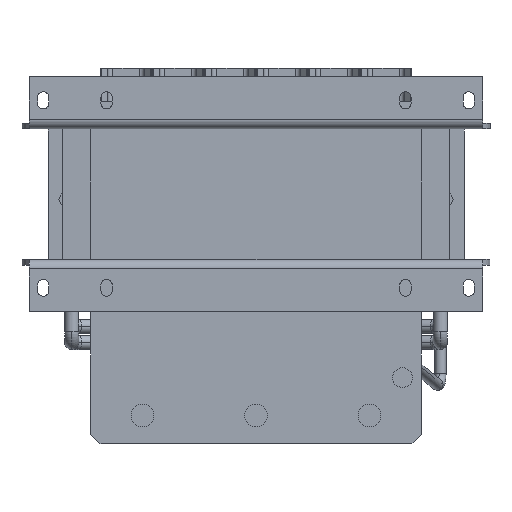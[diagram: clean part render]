
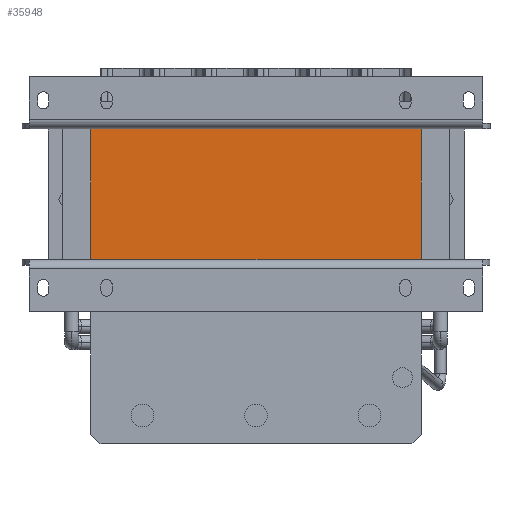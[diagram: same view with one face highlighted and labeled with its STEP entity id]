
A CAD part, front view. The second image highlights one B-rep face of the part: STEP entity #35948.
In plain terms, the highlighted planar face has unit normal (0, -1, 0).
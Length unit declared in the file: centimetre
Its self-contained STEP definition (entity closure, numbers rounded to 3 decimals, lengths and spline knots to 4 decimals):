
#432 = VERTEX_POINT ( 'NONE', #39642 ) ;
#801 = CARTESIAN_POINT ( 'NONE',  ( 17.5, 1., -6.915 ) ) ;
#2680 = CARTESIAN_POINT ( 'NONE',  ( -17.5, 1., -6.915 ) ) ;
#2939 = DIRECTION ( 'NONE',  ( 1., 0., 0. ) ) ;
#4368 = ORIENTED_EDGE ( 'NONE', *, *, #6737, .T. ) ;
#6078 = DIRECTION ( 'NONE',  ( 0., 0., -1. ) ) ;
#6100 = LINE ( 'NONE', #12067, #14519 ) ;
#6225 = LINE ( 'NONE', #15405, #33904 ) ;
#6737 = EDGE_CURVE ( 'NONE', #7070, #35439, #6100, .T. ) ;
#7070 = VERTEX_POINT ( 'NONE', #2680 ) ;
#7509 = PLANE ( 'NONE',  #19838 ) ;
#7896 = ORIENTED_EDGE ( 'NONE', *, *, #14027, .T. ) ;
#7996 = ORIENTED_EDGE ( 'NONE', *, *, #14311, .F. ) ;
#9669 = FACE_OUTER_BOUND ( 'NONE', #15933, .T. ) ;
#12067 = CARTESIAN_POINT ( 'NONE',  ( -17.5, 1., -6.915 ) ) ;
#12886 = DIRECTION ( 'NONE',  ( 0., 1., 0. ) ) ;
#14027 = EDGE_CURVE ( 'NONE', #34054, #7070, #22336, .T. ) ;
#14311 = EDGE_CURVE ( 'NONE', #432, #35439, #34222, .T. ) ;
#14456 = EDGE_CURVE ( 'NONE', #34054, #432, #6225, .T. ) ;
#14519 = VECTOR ( 'NONE', #2939, 100. ) ;
#15405 = CARTESIAN_POINT ( 'NONE',  ( -17.5, 1., 6.915 ) ) ;
#15933 = EDGE_LOOP ( 'NONE', ( #4368, #7996, #33436, #7896 ) ) ;
#19838 = AXIS2_PLACEMENT_3D ( 'NONE', #22741, #12886, #22944 ) ;
#20586 = DIRECTION ( 'NONE',  ( 0., 0., -1. ) ) ;
#22336 = LINE ( 'NONE', #35323, #25718 ) ;
#22741 = CARTESIAN_POINT ( 'NONE',  ( -17.5, 1., 6.915 ) ) ;
#22944 = DIRECTION ( 'NONE',  ( 0., 0., 1. ) ) ;
#25671 = DIRECTION ( 'NONE',  ( 1., 0., 0. ) ) ;
#25718 = VECTOR ( 'NONE', #6078, 100. ) ;
#28610 = CARTESIAN_POINT ( 'NONE',  ( -17.5, 1., 6.915 ) ) ;
#30809 = CARTESIAN_POINT ( 'NONE',  ( 17.5, 1., 6.915 ) ) ;
#33436 = ORIENTED_EDGE ( 'NONE', *, *, #14456, .F. ) ;
#33904 = VECTOR ( 'NONE', #25671, 100. ) ;
#34054 = VERTEX_POINT ( 'NONE', #28610 ) ;
#34222 = LINE ( 'NONE', #30809, #37315 ) ;
#35323 = CARTESIAN_POINT ( 'NONE',  ( -17.5, 1., 6.915 ) ) ;
#35439 = VERTEX_POINT ( 'NONE', #801 ) ;
#35948 = ADVANCED_FACE ( 'NONE', ( #9669 ), #7509, .F. ) ;
#37315 = VECTOR ( 'NONE', #20586, 100. ) ;
#39642 = CARTESIAN_POINT ( 'NONE',  ( 17.5, 1., 6.915 ) ) ;
